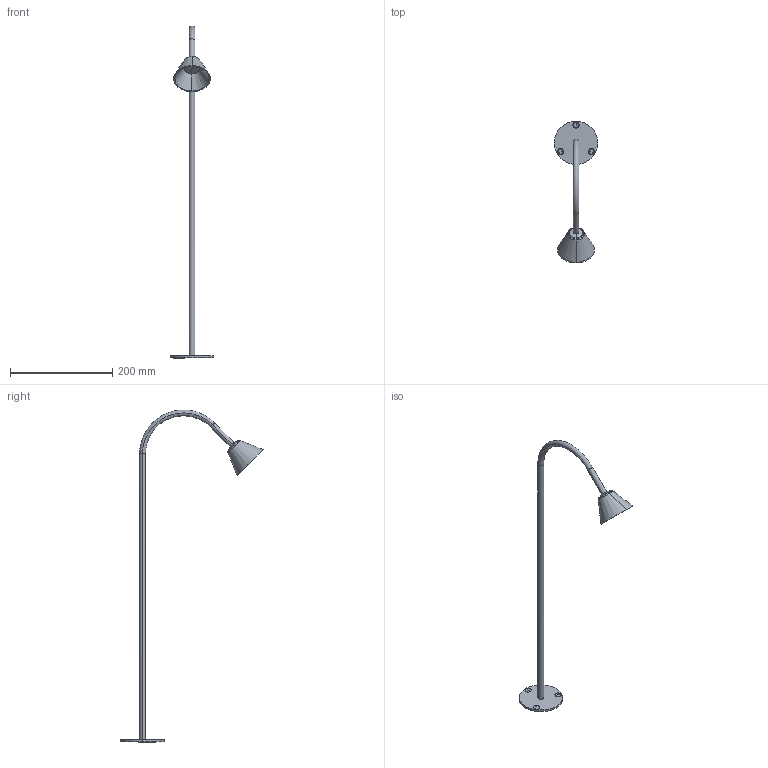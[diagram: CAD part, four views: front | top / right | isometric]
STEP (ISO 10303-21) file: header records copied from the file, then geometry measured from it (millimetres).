
FILE_DESCRIPTION(/* description */ (''),/* implementation_level */ '2;1');
FILE_NAME(/* name */ '75621.step',/* time_stamp */ '2024-09-26T15:23:45+02:00',/* author */ ('RenataManzini'),/* organization */ (''),/* preprocessor_version */ 'ST-DEVELOPER v20',/* originating_system */ 'AutoCAD Mechanical',/* authorisation */ '');
FILE_SCHEMA (('AUTOMOTIVE_DESIGN { 1 0 10303 214 3 1 1 }'));
Length unit declared in the file: millimetre
Products named in the file (2): Product; Lily_650 - pieza-744622-_3D_
Assembly tree (1 placements, depth 2):
  Product
    Lily_650 - pieza-744622-_3D_
Bounding box: 85 x 278.58 x 649.85 mm (x, y, z)
Volume: 153395.4 mm3; surface area: 60188.5 mm2
Topology: 7 solids, 7 shells, 72 faces, 129 edges, 73 vertices
Faces by surface type: plane 26, cylinder 22, cone 16, torus 6, bspline 2
Entity records: 1862 total; most frequent: CARTESIAN_POINT 398, DIRECTION 332, ORIENTED_EDGE 252, AXIS2_PLACEMENT_3D 140, EDGE_CURVE 126, EDGE_LOOP 78, FACE_OUTER_BOUND 72, ADVANCED_FACE 72
